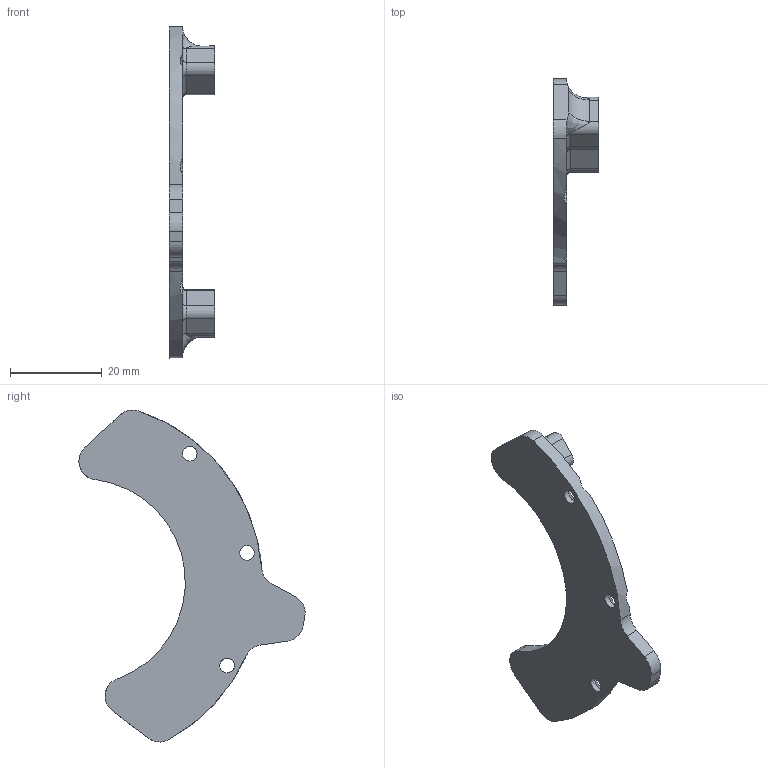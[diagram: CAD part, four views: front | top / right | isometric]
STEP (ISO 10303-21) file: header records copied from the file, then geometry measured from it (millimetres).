
FILE_DESCRIPTION(/* description */ ('STEP AP242 Edition 2','CAx-IF Rec.Pracs.---Representation and Presentation of Product Manufacturing Information (PMI)---4.0---2014-10-13','CAx-IF Rec.Pracs.---3D Tessellated Geometry---0.4---2014-09-14','2;1','CAx-IF Rec.Pracs.---User Defined Attributes---1.5---2016-08-15'),/* implementation_level */ '2;1');
FILE_NAME(/* name */ 'Assy_ForMFG - KD-D-506R_EndStop_80deg',/* time_stamp */ '2026-05-15T19:56:38Z',/* author */ (''),/* organization */ (''),/* preprocessor_version */ 'ST-DEVELOPER v20',/* originating_system */ 'ONSHAPE BY PTC INC, 1.215',/* authorisation */ ' ');
FILE_SCHEMA (('AP242_MANAGED_MODEL_BASED_3D_ENGINEERING_MIM_LF { 1 0 10303 442 3 1 4 }'));
Length unit declared in the file: metre
Products named in the file (1): KD-D-506R_EndStop_80deg
Bounding box: 10 x 49.34 x 72.41 mm (x, y, z)
Volume: 5604.3 mm3; surface area: 4110 mm2
Topology: 1 solids, 1 shells, 66 faces, 181 edges, 114 vertices
Faces by surface type: cylinder 34, plane 19, torus 6, bspline 4, cone 3
Full cylindrical faces by diameter (mm): 3.2 x3
Entity records: 2526 total; most frequent: CARTESIAN_POINT 880, DIRECTION 346, ORIENTED_EDGE 338, EDGE_CURVE 169, AXIS2_PLACEMENT_3D 136, VERTEX_POINT 108, EDGE_LOOP 75, FACE_BOUND 75
